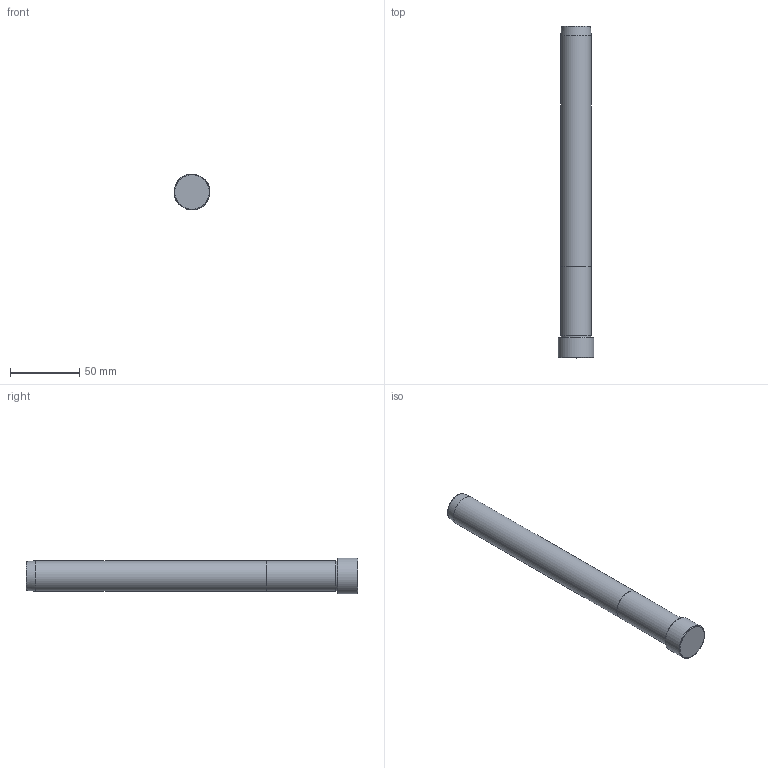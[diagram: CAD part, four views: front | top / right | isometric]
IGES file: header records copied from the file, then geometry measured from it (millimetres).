
Start section: Missler Software BP 521, 31674 Labege Cedex, France Tel   : +33 (0)5 61 00 03 00 Fax   : +33 (0)5 61 00 03 03 Email : sup.topsolid@topsolid.com
Global section: file name: D:\Delta 3 D\D01D\22\D01D - 22x240.IGS; native system: TopSolid v605250 Missler Software; preprocessor: IGES preprocessor v100000; date: 030103.013111; units: millimetre
Bounding box: 25.98 x 240 x 26 mm (x, y, z)
Surface area: 17793.5 mm2 (no closed solid volume)
Topology: 0 solids, 0 shells, 13 faces, 283 edges, 276 vertices
Faces by surface type: bspline 13
